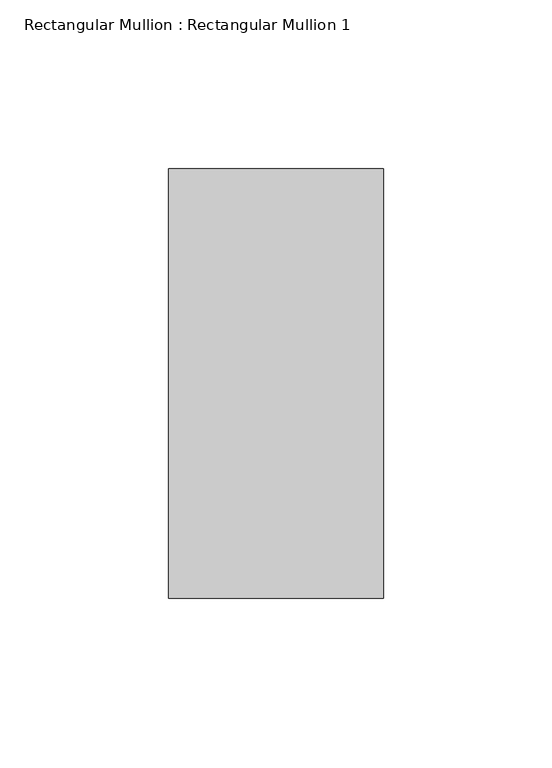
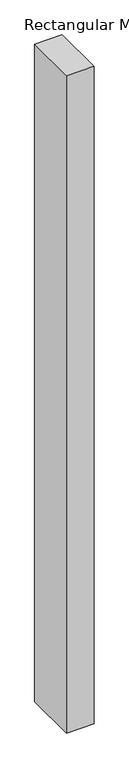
"""IFC4 building model written with IfcOpenShell, lengths in millimetres: member geometry, Rectangular Mullion : Rectangular Mullion 1."""

from ifc_helpers import new_model, si_unit, frame, origin, place, context, project, spatial, polyline, outline, extrude, source, transform, mapped, element, save


def rectangular_mullion_rectangular_mullion_1_a164bd95(model_context):
    return source(origin(), model_context, "Body", "SweptSolid", [
        extrude(outline(polyline([(0.0, 63.5), (0.0, -63.5), (-63.5, -63.5), (-63.5, 63.5), (0.0, 63.5)])), frame((0.0, 0.0, -1604.7500002), z_axis=(0.0, 0.0, 1.0), x_axis=(1.0, 0.0, 0.0)), (0.0, 0.0, 1.0), 1604.7500002),
    ])


if __name__ == "__main__":
    model = new_model("IFC4")
    model_context = context("Model", 3, world=origin())
    ifc_project = project(units=[si_unit("LENGTHUNIT", "METRE", prefix="MILLI")], contexts=[model_context])
    site = spatial("IfcSite", under=ifc_project)
    building = spatial("IfcBuilding", under=site)
    placement = place(None, origin())
    rectangular_mullion_rectangular_mullion_1_shape = rectangular_mullion_rectangular_mullion_1_a164bd95(model_context)
    element("IfcMember", 1, ObjectType="Rectangular Mullion : Rectangular Mullion 1", at=placement, inside=building, context=model_context, shape_type="MappedRepresentation", body=[
        mapped(rectangular_mullion_rectangular_mullion_1_shape, transform((0.0, 0.0, 0.0), x_axis=(1.0, 0.0, 0.0), y_axis=(0.0, 1.0, 0.0), z_axis=(0.0, 0.0, 1.0))),
    ])
    save(model, "model.ifc")
